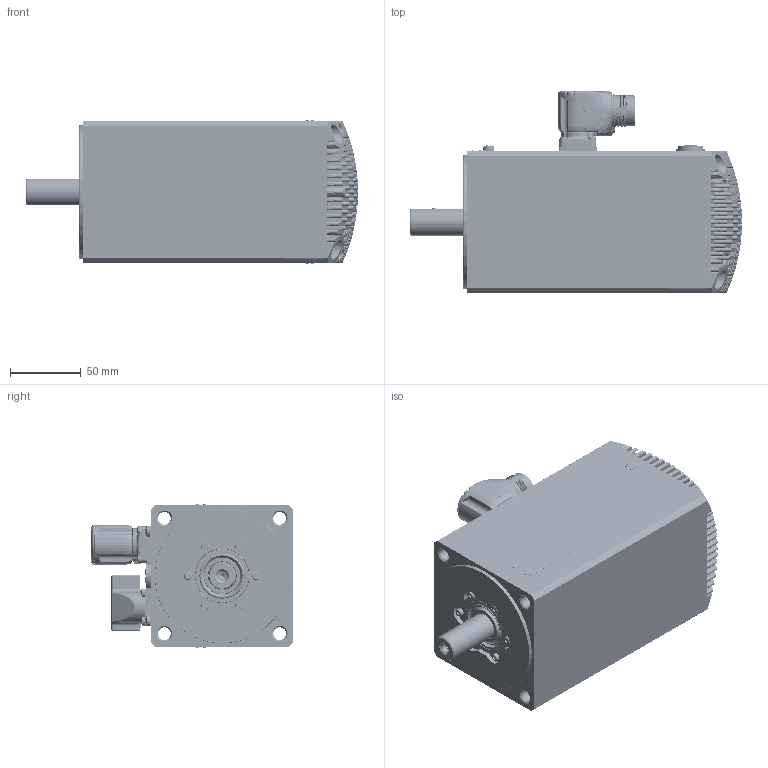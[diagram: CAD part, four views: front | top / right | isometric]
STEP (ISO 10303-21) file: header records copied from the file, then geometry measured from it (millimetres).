
FILE_DESCRIPTION((''),'2;1');
FILE_NAME('32190015747_ASM','2022-04-12T12:09:36',('gabrielec'),(''),'CREO PARAMETRIC BY PTC INC, 2021304','CREO PARAMETRIC BY PTC INC, 2021304','');
FILE_SCHEMA(('AP242_MANAGED_MODEL_BASED_3D_ENGINEERING_MIM_LF { 1 0 10303 442 1 1 4 }'));
Products named in the file (38): 52580N-0; 32149915564_ASM; 22320015080; 50938N-0; 22320015080_ASM; 32050015015_ASM; 32060015581_ASM; 51941N-1; 32090015035_ASM; NRG_001; M3X16_GBT70-1; GB_T862_1; M4X8_GBT818_CU; 51093N-0; 32159915248_ASM; 22160015160; MENTOR-1292_9013; CEMBRE_FD9; CEMBRE_2053M16N; 32150015177_ASM; PHOENIX-1605586; 33000015098_AF18_ASM; UNI7687_M3X8_INOX; CAN_OPEN; 33200203857_AF9_ASM; 31500203857_AF9_ASM; 50941N-0; UNI7687_M3X6_INOX; UNI5931_M3X6_INOX; 22210015021; 32150015175_ASM; UNI5931_M4X16; LIP_SEAL_TW05; 22250015024; 22250015126; 43500000229; 43500000050; 32190015747_ASM
Assembly tree (65 placements, depth 7):
  32190015747_ASM
    32159915248_ASM
      32149915564_ASM
        52580N-0
      32090015035_ASM
        32060015581_ASM
          32050015015_ASM
            22320015080_ASM
              22320015080
              50938N-0
        51941N-1
      NRG_001  x6
      M3X16_GBT70-1  x6
      GB_T862_1  x2
      M4X8_GBT818_CU  x2
      51093N-0
    32150015177_ASM
      22160015160
      MENTOR-1292_9013  x8
      CEMBRE_FD9
      CEMBRE_2053M16N
    33000015098_AF18_ASM
      PHOENIX-1605586
    UNI7687_M3X8_INOX  x4
    31500203857_AF9_ASM
      33200203857_AF9_ASM
        CAN_OPEN
    50941N-0  x2
    UNI7687_M3X6_INOX  x3
    UNI5931_M3X6_INOX
    32150015175_ASM
      22210015021
    UNI5931_M4X16  x4
    LIP_SEAL_TW05
    22250015024
    22250015126
    43500000229
    43500000050
Bounding box: 234 x 142.41 x 100.8 mm (x, y, z)
Volume: 718661.2 mm3; surface area: 348919.4 mm2
Topology: 74 solids, 102 shells, 4644 faces, 11676 edges, 7407 vertices
Faces by surface type: plane 1598, cylinder 1146, cone 667, bspline 612, torus 356, sphere 243, revolution 11, extrusion 11
Entity records: 202051 total; most frequent: CARTESIAN_POINT 68399, ORIENTED_EDGE 20656, DIRECTION 18852, PRESENTATION_STYLE_ASSIGNMENT 10795, EDGE_CURVE 10383, STYLED_ITEM 10381, CURVE_STYLE 10309, AXIS2_PLACEMENT_3D 7329
